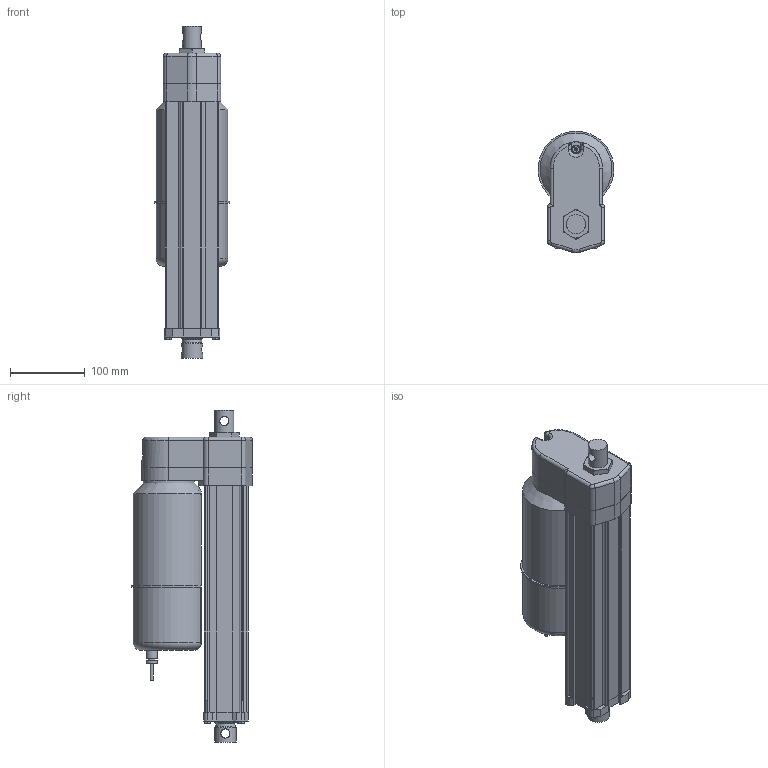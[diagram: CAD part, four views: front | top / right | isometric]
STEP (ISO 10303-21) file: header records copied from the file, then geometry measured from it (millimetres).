
FILE_DESCRIPTION (( 'STEP AP214' ), '1' );
FILE_NAME ('AA22-05A65M-25M0N-tollo.step', '2020-04-13T18:48:44', ( '' ), ( '' ), 'SwSTEP 2.0', 'SolidWorks 2010', '' );
FILE_SCHEMA (( 'AUTOMOTIVE_DESIGN' ));
Length unit declared in the file: millimetre
Products named in the file (8): Electrak-LA24-Motor-AA22-05A65M-25M0N-tollo_Electrak-LA24-Motor-AA22-05A65M-25M0N-tollo; Electrak-LA24-Rear-AA22-05A65M-25M0N-tollo_Electrak-LA24-Rear-AA22-05A65M-25M0N-tollo; Electrak-LA24-Tube-AA22-05A65M-25M0N-tollo_Electrak-LA24-Tube-AA22-05A65M-25M0N-tollo; Electrak-LA24-Rod-AA22-05A65M-25M0N-tollo_Electrak-LA24-Rod-AA22-05A65M-25M0N-tollo; Electrak-LA24-Plate-AA22-05A65M-25M0N-tollo_Electrak-LA24-Plate-AA22-05A65M-25M0N-tollo; Screw-MFX-H-M5_Screw-MFX-H-M5x24H; Screw-M6S-M5-AA22-05A65M-25M0N-tollo_Screw-M6S-M5-AA22-05A65M-25M0N-tollo; AA22-05A65M-25M0N-tollo
Assembly tree (10 placements, depth 2):
  AA22-05A65M-25M0N-tollo
    Electrak-LA24-Tube-AA22-05A65M-25M0N-tollo_Electrak-LA24-Tube-AA22-05A65M-25M0N-tollo
    Screw-M6S-M5-AA22-05A65M-25M0N-tollo_Screw-M6S-M5-AA22-05A65M-25M0N-tollo  x4
    Electrak-LA24-Rear-AA22-05A65M-25M0N-tollo_Electrak-LA24-Rear-AA22-05A65M-25M0N-tollo
    Electrak-LA24-Motor-AA22-05A65M-25M0N-tollo_Electrak-LA24-Motor-AA22-05A65M-25M0N-tollo
    Electrak-LA24-Rod-AA22-05A65M-25M0N-tollo_Electrak-LA24-Rod-AA22-05A65M-25M0N-tollo
    Electrak-LA24-Plate-AA22-05A65M-25M0N-tollo_Electrak-LA24-Plate-AA22-05A65M-25M0N-tollo
    Screw-MFX-H-M5_Screw-MFX-H-M5x24H
Bounding box: 100.99 x 162.5 x 442.8 mm (x, y, z)
Volume: 2700778.7 mm3; surface area: 355004.4 mm2
Topology: 10 solids, 10 shells, 353 faces, 886 edges, 572 vertices
Faces by surface type: plane 174, cylinder 128, cone 31, torus 15, bspline 3, sphere 2
Full cylindrical faces by diameter (mm): 4 x1, 4.126 x5, 4.8 x6, 5 x5, 5.6 x4, 7.878 x4, 9.3 x1, 10 x1, 12.2 x2, 15 x2, 25.4 x1, 28.6 x4, 47.625 x1, 68 x1
Entity records: 9633 total; most frequent: CARTESIAN_POINT 2397, DIRECTION 1446, ORIENTED_EDGE 1338, EDGE_CURVE 669, AXIS2_PLACEMENT_3D 527, VERTEX_POINT 460, LINE 392, VECTOR 392
